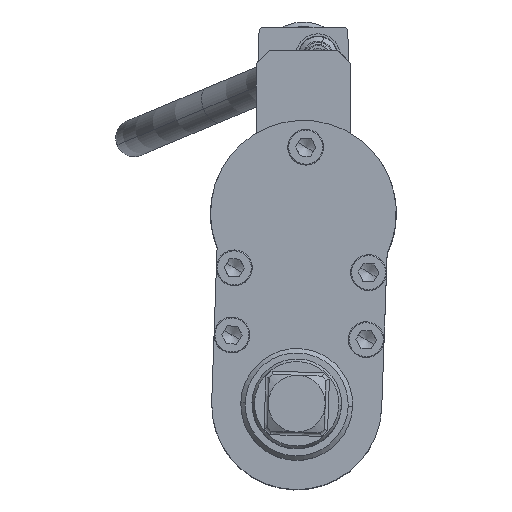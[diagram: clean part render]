
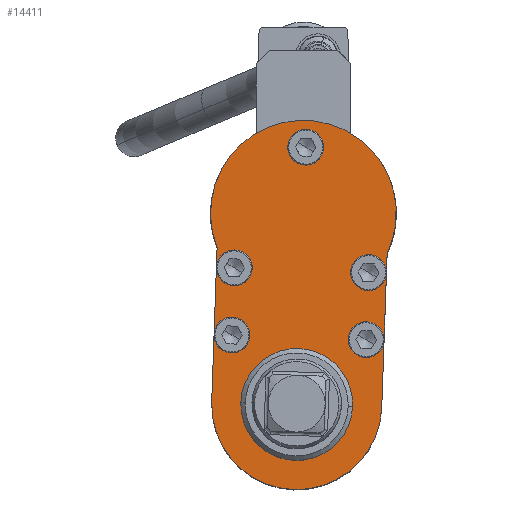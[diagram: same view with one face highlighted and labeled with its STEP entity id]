
A CAD part, top view. The second image highlights one B-rep face of the part: STEP entity #14411.
In plain terms, the highlighted planar face has unit normal (0, 0, 1).
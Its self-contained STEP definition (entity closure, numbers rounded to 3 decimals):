
#14267=AXIS2_PLACEMENT_3D('Plane Axis2P3D',#14264,#14265,#14266) ;
#14271=AXIS2_PLACEMENT_3D('Circle Axis2P3D',#14269,#14270,$) ;
#14287=AXIS2_PLACEMENT_3D('Circle Axis2P3D',#14285,#14286,$) ;
#14305=AXIS2_PLACEMENT_3D('Circle Axis2P3D',#14303,#14304,$) ;
#14314=AXIS2_PLACEMENT_3D('Circle Axis2P3D',#14312,#14313,$) ;
#14323=AXIS2_PLACEMENT_3D('Circle Axis2P3D',#14321,#14322,$) ;
#14332=AXIS2_PLACEMENT_3D('Circle Axis2P3D',#14330,#14331,$) ;
#14341=AXIS2_PLACEMENT_3D('Circle Axis2P3D',#14339,#14340,$) ;
#14350=AXIS2_PLACEMENT_3D('Circle Axis2P3D',#14348,#14349,$) ;
#14359=AXIS2_PLACEMENT_3D('Circle Axis2P3D',#14357,#14358,$) ;
#14368=AXIS2_PLACEMENT_3D('Circle Axis2P3D',#14366,#14367,$) ;
#14377=AXIS2_PLACEMENT_3D('Circle Axis2P3D',#14375,#14376,$) ;
#14386=AXIS2_PLACEMENT_3D('Circle Axis2P3D',#14384,#14385,$) ;
#14395=AXIS2_PLACEMENT_3D('Circle Axis2P3D',#14393,#14394,$) ;
#14404=AXIS2_PLACEMENT_3D('Circle Axis2P3D',#14402,#14403,$) ;
#14264=CARTESIAN_POINT('Axis2P3D Location',(-2.984,-85.448,581.6)) ;
#14269=CARTESIAN_POINT('Axis2P3D Location',(-2.984,-85.448,581.6)) ;
#14273=CARTESIAN_POINT('Vertex',(-40.961,-84.122,581.6)) ;
#14275=CARTESIAN_POINT('Vertex',(34.993,-86.774,581.6)) ;
#14278=CARTESIAN_POINT('Line Origine',(36.194,-52.385,581.6)) ;
#14282=CARTESIAN_POINT('Vertex',(37.395,-17.997,581.6)) ;
#14285=CARTESIAN_POINT('Axis2P3D Location',(0.,0.,581.6)) ;
#14289=CARTESIAN_POINT('Vertex',(-38.559,-15.344,581.6)) ;
#14292=CARTESIAN_POINT('Line Origine',(-39.76,-49.733,581.6)) ;
#14303=CARTESIAN_POINT('Axis2P3D Location',(1.03,29.482,581.6)) ;
#14307=CARTESIAN_POINT('Vertex',(-3.004,31.872,581.6)) ;
#14309=CARTESIAN_POINT('Vertex',(5.063,27.092,581.6)) ;
#14312=CARTESIAN_POINT('Axis2P3D Location',(1.03,29.482,581.6)) ;
#14321=CARTESIAN_POINT('Axis2P3D Location',(-31.919,-54.419,581.6)) ;
#14325=CARTESIAN_POINT('Vertex',(-35.952,-52.029,581.6)) ;
#14327=CARTESIAN_POINT('Vertex',(-27.885,-56.809,581.6)) ;
#14330=CARTESIAN_POINT('Axis2P3D Location',(-31.919,-54.419,581.6)) ;
#14339=CARTESIAN_POINT('Axis2P3D Location',(-2.984,-85.448,581.6)) ;
#14343=CARTESIAN_POINT('Vertex',(22.001,-86.32,581.6)) ;
#14345=CARTESIAN_POINT('Vertex',(-27.969,-84.575,581.6)) ;
#14348=CARTESIAN_POINT('Axis2P3D Location',(-2.984,-85.448,581.6)) ;
#14357=CARTESIAN_POINT('Axis2P3D Location',(28.045,-56.513,581.6)) ;
#14361=CARTESIAN_POINT('Vertex',(32.078,-58.903,581.6)) ;
#14363=CARTESIAN_POINT('Vertex',(24.012,-54.123,581.6)) ;
#14366=CARTESIAN_POINT('Axis2P3D Location',(28.045,-56.513,581.6)) ;
#14375=CARTESIAN_POINT('Axis2P3D Location',(-30.872,-24.437,581.6)) ;
#14379=CARTESIAN_POINT('Vertex',(-26.838,-26.827,581.6)) ;
#14381=CARTESIAN_POINT('Vertex',(-34.905,-22.048,581.6)) ;
#14384=CARTESIAN_POINT('Axis2P3D Location',(-30.872,-24.437,581.6)) ;
#14393=CARTESIAN_POINT('Axis2P3D Location',(29.092,-26.531,581.6)) ;
#14397=CARTESIAN_POINT('Vertex',(33.125,-28.921,581.6)) ;
#14399=CARTESIAN_POINT('Vertex',(25.059,-24.142,581.6)) ;
#14402=CARTESIAN_POINT('Axis2P3D Location',(29.092,-26.531,581.6)) ;
#14265=DIRECTION('Axis2P3D Direction',(-0.,0.,1.)) ;
#14266=DIRECTION('Axis2P3D XDirection',(0.999,-0.035,0.)) ;
#14270=DIRECTION('Axis2P3D Direction',(-0.,0.,1.)) ;
#14279=DIRECTION('Vector Direction',(0.035,0.999,0.)) ;
#14286=DIRECTION('Axis2P3D Direction',(-0.,0.,1.)) ;
#14293=DIRECTION('Vector Direction',(-0.035,-0.999,0.)) ;
#14304=DIRECTION('Axis2P3D Direction',(-0.,0.,1.)) ;
#14313=DIRECTION('Axis2P3D Direction',(-0.,0.,1.)) ;
#14322=DIRECTION('Axis2P3D Direction',(-0.,0.,1.)) ;
#14331=DIRECTION('Axis2P3D Direction',(-0.,0.,1.)) ;
#14340=DIRECTION('Axis2P3D Direction',(-0.,0.,1.)) ;
#14349=DIRECTION('Axis2P3D Direction',(-0.,0.,1.)) ;
#14358=DIRECTION('Axis2P3D Direction',(-0.,0.,1.)) ;
#14367=DIRECTION('Axis2P3D Direction',(-0.,0.,1.)) ;
#14376=DIRECTION('Axis2P3D Direction',(-0.,0.,1.)) ;
#14385=DIRECTION('Axis2P3D Direction',(-0.,0.,1.)) ;
#14394=DIRECTION('Axis2P3D Direction',(-0.,0.,1.)) ;
#14403=DIRECTION('Axis2P3D Direction',(-0.,0.,1.)) ;
#14280=VECTOR('Line Direction',#14279,1.) ;
#14294=VECTOR('Line Direction',#14293,1.) ;
#14298=ORIENTED_EDGE('',*,*,#14277,.T.) ;
#14299=ORIENTED_EDGE('',*,*,#14284,.T.) ;
#14300=ORIENTED_EDGE('',*,*,#14291,.T.) ;
#14301=ORIENTED_EDGE('',*,*,#14296,.T.) ;
#14318=ORIENTED_EDGE('',*,*,#14311,.F.) ;
#14319=ORIENTED_EDGE('',*,*,#14316,.F.) ;
#14336=ORIENTED_EDGE('',*,*,#14329,.F.) ;
#14337=ORIENTED_EDGE('',*,*,#14334,.F.) ;
#14354=ORIENTED_EDGE('',*,*,#14347,.F.) ;
#14355=ORIENTED_EDGE('',*,*,#14352,.F.) ;
#14372=ORIENTED_EDGE('',*,*,#14365,.F.) ;
#14373=ORIENTED_EDGE('',*,*,#14370,.F.) ;
#14390=ORIENTED_EDGE('',*,*,#14383,.F.) ;
#14391=ORIENTED_EDGE('',*,*,#14388,.F.) ;
#14408=ORIENTED_EDGE('',*,*,#14401,.F.) ;
#14409=ORIENTED_EDGE('',*,*,#14406,.F.) ;
#14320=FACE_BOUND('',#14317,.T.) ;
#14338=FACE_BOUND('',#14335,.T.) ;
#14356=FACE_BOUND('',#14353,.T.) ;
#14374=FACE_BOUND('',#14371,.T.) ;
#14392=FACE_BOUND('',#14389,.T.) ;
#14410=FACE_BOUND('',#14407,.T.) ;
#14411=ADVANCED_FACE('AO3360.1\\AO3360_Gehauese.1\\Hauptk\X2\00F6\X0\rper',(#14302,#14320,#14338,#14356,#14374,#14392,#14410),#14268,.T.) ;
#14272=CIRCLE('generated circle',#14271,38.) ;
#14288=CIRCLE('generated circle',#14287,41.5) ;
#14306=CIRCLE('generated circle',#14305,4.688) ;
#14315=CIRCLE('generated circle',#14314,4.688) ;
#14324=CIRCLE('generated circle',#14323,4.688) ;
#14333=CIRCLE('generated circle',#14332,4.688) ;
#14342=CIRCLE('generated circle',#14341,25.) ;
#14351=CIRCLE('generated circle',#14350,25.) ;
#14360=CIRCLE('generated circle',#14359,4.688) ;
#14369=CIRCLE('generated circle',#14368,4.688) ;
#14378=CIRCLE('generated circle',#14377,4.688) ;
#14387=CIRCLE('generated circle',#14386,4.688) ;
#14396=CIRCLE('generated circle',#14395,4.688) ;
#14405=CIRCLE('generated circle',#14404,4.688) ;
#14277=EDGE_CURVE('',#14274,#14276,#14272,.T.) ;
#14284=EDGE_CURVE('',#14276,#14283,#14281,.T.) ;
#14291=EDGE_CURVE('',#14283,#14290,#14288,.T.) ;
#14296=EDGE_CURVE('',#14290,#14274,#14295,.T.) ;
#14311=EDGE_CURVE('',#14308,#14310,#14306,.T.) ;
#14316=EDGE_CURVE('',#14310,#14308,#14315,.T.) ;
#14329=EDGE_CURVE('',#14326,#14328,#14324,.T.) ;
#14334=EDGE_CURVE('',#14328,#14326,#14333,.T.) ;
#14347=EDGE_CURVE('',#14344,#14346,#14342,.T.) ;
#14352=EDGE_CURVE('',#14346,#14344,#14351,.T.) ;
#14365=EDGE_CURVE('',#14362,#14364,#14360,.T.) ;
#14370=EDGE_CURVE('',#14364,#14362,#14369,.T.) ;
#14383=EDGE_CURVE('',#14380,#14382,#14378,.T.) ;
#14388=EDGE_CURVE('',#14382,#14380,#14387,.T.) ;
#14401=EDGE_CURVE('',#14398,#14400,#14396,.T.) ;
#14406=EDGE_CURVE('',#14400,#14398,#14405,.T.) ;
#14297=EDGE_LOOP('',(#14298,#14299,#14300,#14301)) ;
#14317=EDGE_LOOP('',(#14318,#14319)) ;
#14335=EDGE_LOOP('',(#14336,#14337)) ;
#14353=EDGE_LOOP('',(#14354,#14355)) ;
#14371=EDGE_LOOP('',(#14372,#14373)) ;
#14389=EDGE_LOOP('',(#14390,#14391)) ;
#14407=EDGE_LOOP('',(#14408,#14409)) ;
#14302=FACE_OUTER_BOUND('',#14297,.T.) ;
#14281=LINE('Line',#14278,#14280) ;
#14295=LINE('Line',#14292,#14294) ;
#14268=PLANE('Plane',#14267) ;
#14274=VERTEX_POINT('',#14273) ;
#14276=VERTEX_POINT('',#14275) ;
#14283=VERTEX_POINT('',#14282) ;
#14290=VERTEX_POINT('',#14289) ;
#14308=VERTEX_POINT('',#14307) ;
#14310=VERTEX_POINT('',#14309) ;
#14326=VERTEX_POINT('',#14325) ;
#14328=VERTEX_POINT('',#14327) ;
#14344=VERTEX_POINT('',#14343) ;
#14346=VERTEX_POINT('',#14345) ;
#14362=VERTEX_POINT('',#14361) ;
#14364=VERTEX_POINT('',#14363) ;
#14380=VERTEX_POINT('',#14379) ;
#14382=VERTEX_POINT('',#14381) ;
#14398=VERTEX_POINT('',#14397) ;
#14400=VERTEX_POINT('',#14399) ;
